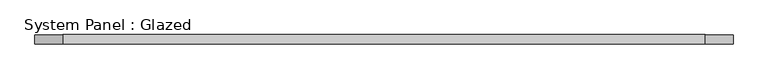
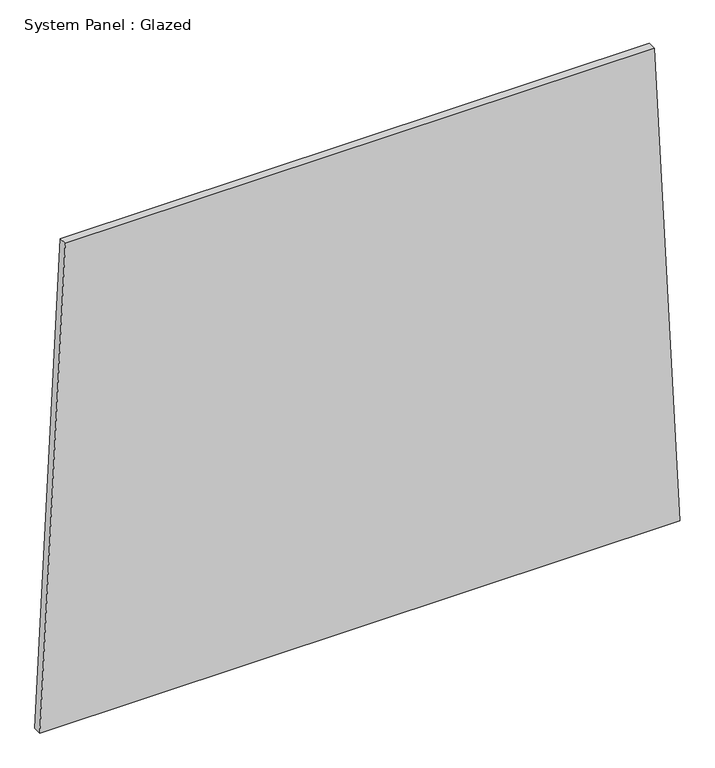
"""IFC4 building model written with IfcOpenShell, lengths in millimetres: plate geometry, System Panel : Glazed."""

from ifc_helpers import new_model, si_unit, frame, origin, place, context, project, spatial, polyline, outline, extrude, source, transform, mapped, element, save


def system_panel_glazed_55a81613(model_context):
    return source(origin(), model_context, "Body", "SweptSolid", [
        extrude(outline(polyline([(0.0, -943.0217119), (0.0, 943.0217119), (1498.122367, 867.9925377), (1498.122367, -867.9925595), (0.0, -943.0217119)])), frame((0.0, -49.5, 0.0), z_axis=(0.0, 1.0, 0.0), x_axis=(0.0, 0.0, 1.0)), (0.0, 0.0, 1.0), 25.0),
    ])


if __name__ == "__main__":
    model = new_model("IFC4")
    model_context = context("Model", 3, world=origin())
    ifc_project = project(units=[si_unit("LENGTHUNIT", "METRE", prefix="MILLI")], contexts=[model_context])
    site = spatial("IfcSite", under=ifc_project)
    building = spatial("IfcBuilding", under=site)
    placement = place(None, origin())
    system_panel_glazed_shape = system_panel_glazed_55a81613(model_context)
    element("IfcPlate", 1, ObjectType="System Panel : Glazed", at=placement, inside=building, context=model_context, shape_type="MappedRepresentation", body=[
        mapped(system_panel_glazed_shape, transform((0.0, 0.0, 0.0), x_axis=(1.0, 0.0, 0.0), y_axis=(0.0, 1.0, 0.0), z_axis=(0.0, 0.0, 1.0))),
    ])
    save(model, "model.ifc")
